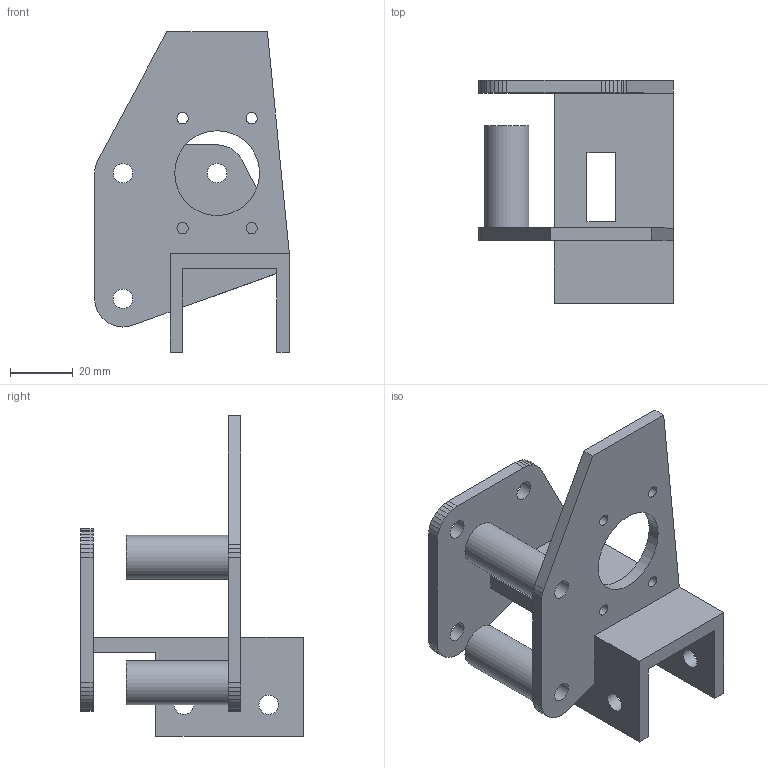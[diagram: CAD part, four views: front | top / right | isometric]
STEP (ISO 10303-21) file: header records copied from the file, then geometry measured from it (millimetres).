
FILE_DESCRIPTION(('Open CASCADE Model'),'2;1');
FILE_NAME('Open CASCADE Shape Model','2026-10-15T19:48:37',('Author'),( 'Open CASCADE'),'Open CASCADE STEP processor 7.9','Open CASCADE 7.9' ,'Unknown');
FILE_SCHEMA(('AUTOMOTIVE_DESIGN { 1 0 10303 214 1 1 1 1 }'));
Length unit declared in the file: millimetre
Products named in the file (1): Open CASCADE STEP translator 7.9 8
Bounding box: 62 x 71 x 102 mm (x, y, z)
Volume: 54723.4 mm3; surface area: 30346.3 mm2
Topology: 1 solids, 1 shells, 95 faces, 269 edges, 178 vertices
Faces by surface type: plane 79, cylinder 16
Full cylindrical faces by diameter (mm): 3.6 x4, 6.2 x9, 14 x2, 27 x1
Entity records: 6580 total; most frequent: CARTESIAN_POINT 1201, DIRECTION 961, LINE 683, VECTOR 683, ORIENTED_EDGE 538, PCURVE 538, DEFINITIONAL_REPRESENTATION 538, EDGE_CURVE 269
